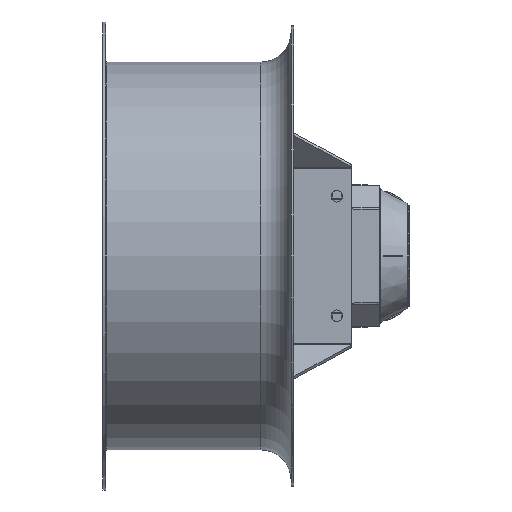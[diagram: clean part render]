
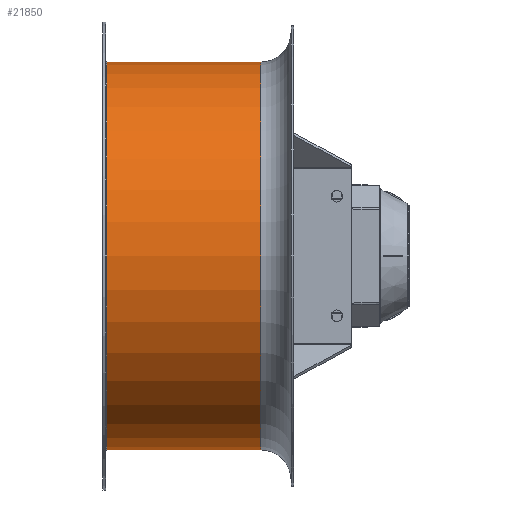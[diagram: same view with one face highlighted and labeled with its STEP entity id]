
A CAD part, front view. The second image highlights one B-rep face of the part: STEP entity #21850.
In plain terms, the highlighted cylindrical face has radius 203 mm (diameter 406 mm), a partial arc.
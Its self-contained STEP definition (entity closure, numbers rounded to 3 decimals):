
#11325 = LINE ( 'NONE', #129181, #129074 ) ;
#15383 = CYLINDRICAL_SURFACE ( 'NONE', #137218, 203. ) ;
#21850 = ADVANCED_FACE ( 'NONE', ( #78354 ), #15383, .T. ) ;
#23646 = VERTEX_POINT ( 'NONE', #55203 ) ;
#39760 = AXIS2_PLACEMENT_3D ( 'NONE', #145294, #198126, #95444 ) ;
#44146 = CARTESIAN_POINT ( 'NONE',  ( 4., 0., 203. ) ) ;
#46326 = VERTEX_POINT ( 'NONE', #77666 ) ;
#55203 = CARTESIAN_POINT ( 'NONE',  ( 165., 0., 203. ) ) ;
#56350 = VERTEX_POINT ( 'NONE', #44146 ) ;
#58501 = ORIENTED_EDGE ( 'NONE', *, *, #138264, .T. ) ;
#70432 = ORIENTED_EDGE ( 'NONE', *, *, #109092, .F. ) ;
#73190 = VERTEX_POINT ( 'NONE', #144103 ) ;
#76512 = AXIS2_PLACEMENT_3D ( 'NONE', #189229, #204595, #153285 ) ;
#77666 = CARTESIAN_POINT ( 'NONE',  ( 165., 0., -203. ) ) ;
#77843 = DIRECTION ( 'NONE',  ( 0., 0., 1. ) ) ;
#78354 = FACE_OUTER_BOUND ( 'NONE', #166203, .T. ) ;
#82924 = EDGE_CURVE ( 'NONE', #46326, #23646, #184902, .T. ) ;
#95444 = DIRECTION ( 'NONE',  ( 0., 0., 1. ) ) ;
#96219 = EDGE_CURVE ( 'NONE', #46326, #73190, #11325, .T. ) ;
#109092 = EDGE_CURVE ( 'NONE', #73190, #56350, #147394, .T. ) ;
#113152 = DIRECTION ( 'NONE',  ( -1., 0., 0. ) ) ;
#113907 = CARTESIAN_POINT ( 'NONE',  ( 0., 0., 0. ) ) ;
#129074 = VECTOR ( 'NONE', #147532, 1000. ) ;
#129181 = CARTESIAN_POINT ( 'NONE',  ( 0., 0., -203. ) ) ;
#137218 = AXIS2_PLACEMENT_3D ( 'NONE', #113907, #113152, #77843 ) ;
#138264 = EDGE_CURVE ( 'NONE', #23646, #56350, #193188, .T. ) ;
#144103 = CARTESIAN_POINT ( 'NONE',  ( 4., 0., -203. ) ) ;
#145294 = CARTESIAN_POINT ( 'NONE',  ( 165., 0., 0. ) ) ;
#147394 = CIRCLE ( 'NONE', #76512, 203. ) ;
#147532 = DIRECTION ( 'NONE',  ( -1., 0., 0. ) ) ;
#153285 = DIRECTION ( 'NONE',  ( 0., 0., 1. ) ) ;
#166203 = EDGE_LOOP ( 'NONE', ( #177974, #178572, #58501, #70432 ) ) ;
#176998 = CARTESIAN_POINT ( 'NONE',  ( 0., 0., 203. ) ) ;
#177974 = ORIENTED_EDGE ( 'NONE', *, *, #96219, .F. ) ;
#178572 = ORIENTED_EDGE ( 'NONE', *, *, #82924, .T. ) ;
#184902 = CIRCLE ( 'NONE', #39760, 203. ) ;
#189229 = CARTESIAN_POINT ( 'NONE',  ( 4., 0., 0. ) ) ;
#193188 = LINE ( 'NONE', #176998, #201578 ) ;
#198126 = DIRECTION ( 'NONE',  ( -1., 0., 0. ) ) ;
#201578 = VECTOR ( 'NONE', #212219, 1000. ) ;
#204595 = DIRECTION ( 'NONE',  ( -1., 0., 0. ) ) ;
#212219 = DIRECTION ( 'NONE',  ( -1., 0., 0. ) ) ;
